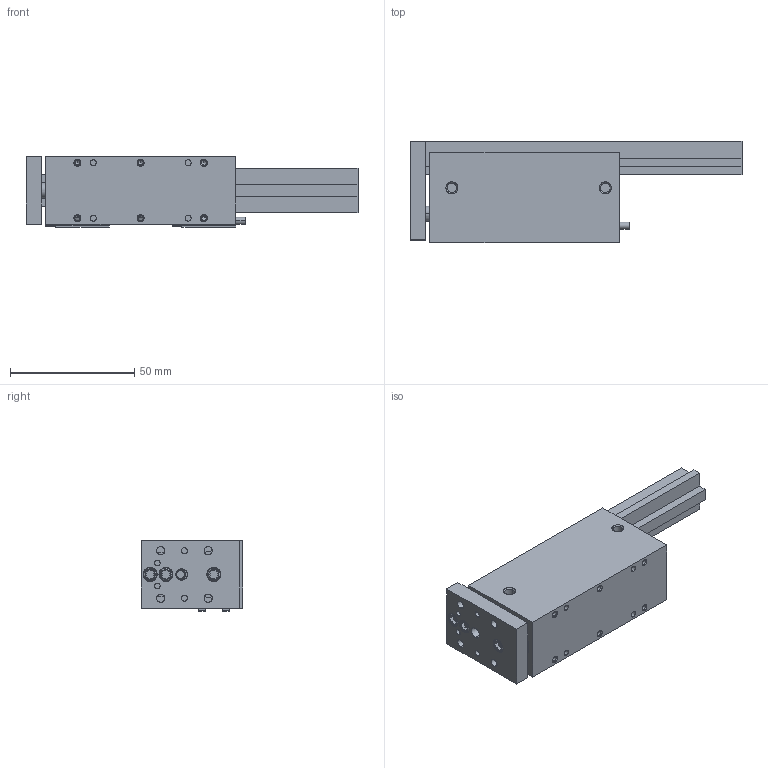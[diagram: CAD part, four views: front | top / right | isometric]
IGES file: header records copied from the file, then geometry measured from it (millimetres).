
Start section: SolidWorks IGES file using analytic representation for surfaces
Global section: file name: C:\Users\jmkuhnes\Pictures\My Transfers\AGMS\AGMS-2-4\AGMS-2-4 RETRACTED in IN.IGS; native system: SolidWorks 2013; preprocessor: SolidWorks 2013; author: jmkuhnes; date: 141106.101015; units: inch
Bounding box: 133.35 x 40.84 x 28.2 mm (x, y, z)
Surface area: 32696.2 mm2 (no closed solid volume)
Topology: 0 solids, 0 shells, 339 faces, 5010 edges, 4992 vertices
Faces by surface type: revolution 196, bspline 143
